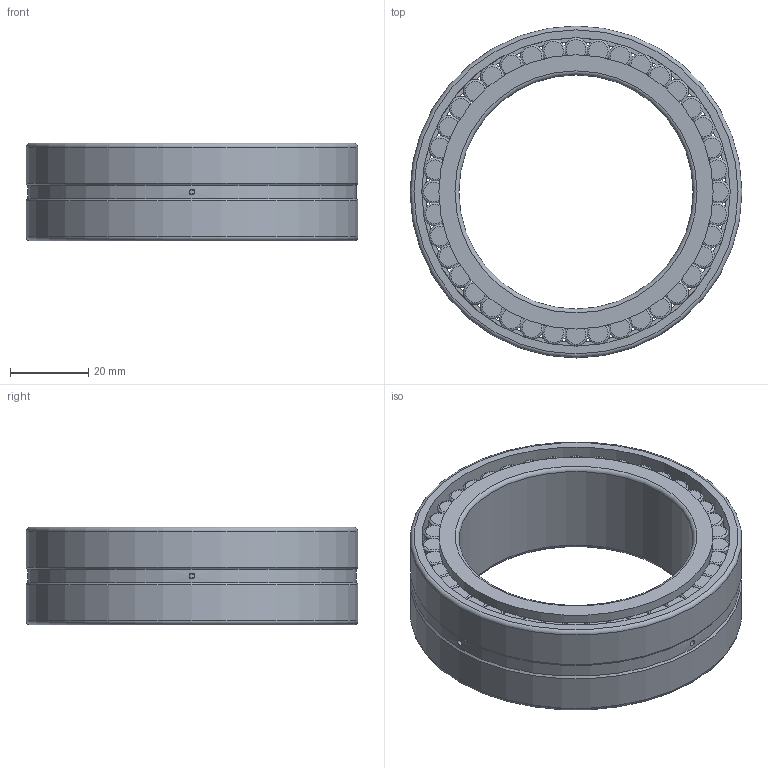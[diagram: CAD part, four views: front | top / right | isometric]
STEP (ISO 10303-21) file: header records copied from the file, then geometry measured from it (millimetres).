
FILE_DESCRIPTION(/* description */ (''),/* implementation_level */ '2;1');
FILE_NAME(/* name */ 'C:\Users\OUREHANEKD\Desktop\Ložiská\MODELY\JRVL\NNCL\NNCL49\NNCL49--\NNCL4912V.stp',/* time_stamp */ '2016-09-12T08:18:46+02:00',/* author */ ('OUREHANEKD'),/* organization */ (''),/* preprocessor_version */ 'ST-DEVELOPER v15.6',/* originating_system */ 'Autodesk Inventor 2015',/* authorisation */ '');
FILE_SCHEMA (('AUTOMOTIVE_DESIGN { 1 0 10303 214 3 1 1 }'));
Length unit declared in the file: millimetre
Products named in the file (5): NNCL4912V-01; NNCL4912V-02; NNCL4912V-kr; NNCL4912V-roller; NNCL4912V
Assembly tree (43 placements, depth 2):
  NNCL4912V
    NNCL4912V-01
    NNCL4912V-02
    NNCL4912V-kr
    NNCL4912V-roller  x40
Bounding box: 85 x 85 x 25 mm (x, y, z)
Volume: 57628.1 mm3; surface area: 45613.1 mm2
Topology: 83 solids, 83 shells, 441 faces, 657 edges, 382 vertices
Faces by surface type: plane 176, torus 164, cylinder 99, cone 2
Full cylindrical faces by diameter (mm): 1.5 x3, 6 x80, 60 x1, 67 x2, 70.25 x3, 77.05 x1, 79 x2, 80.95 x1, 84.22 x1, 85 x2
Entity records: 1842 total; most frequent: CARTESIAN_POINT 471, DIRECTION 306, ORIENTED_EDGE 150, AXIS2_PLACEMENT_3D 147, EDGE_LOOP 92, EDGE_CURVE 75, VERTEX_POINT 63, FACE_OUTER_BOUND 51
